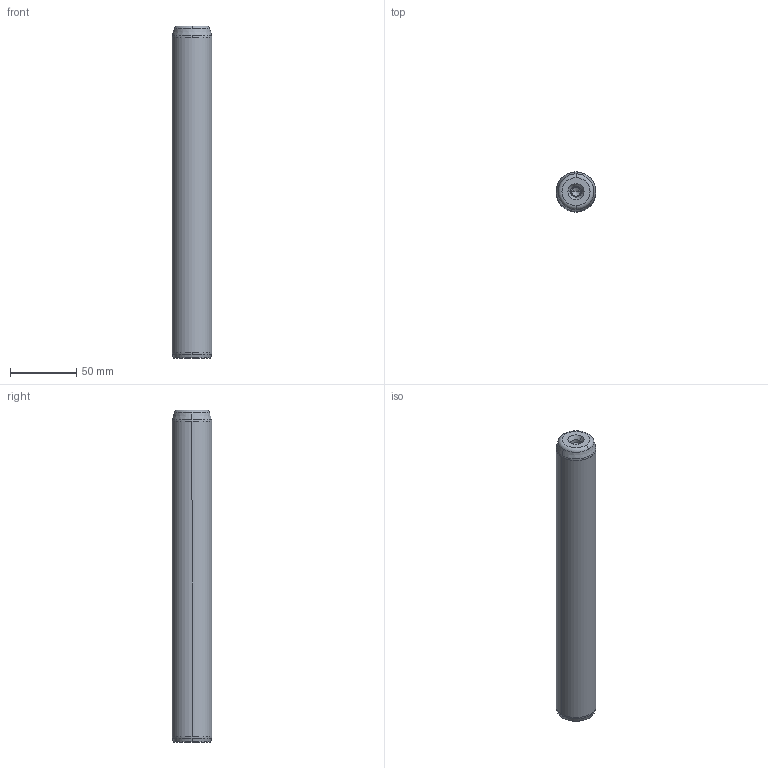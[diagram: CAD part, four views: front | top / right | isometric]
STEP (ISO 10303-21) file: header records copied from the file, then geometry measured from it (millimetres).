
FILE_DESCRIPTION((''),'2;1');
FILE_NAME('P10_030_250.stp','2008-12-23T15:00:28',(''),(''),'Mechanical Desktop 2009','Mechanical Desktop 2009',', , ');
FILE_SCHEMA(('CONFIG_CONTROL_DESIGN'));
Length unit declared in the file: millimetre
Products named in the file (5): Product; ProductAA; blmdl1; ProductA; blmdl1A
Assembly tree (2 placements, depth 3):
  Product
    ProductAA
      blmdl1
  ProductA
  blmdl1A
Bounding box: 30 x 30 x 250 mm (x, y, z)
Volume: 174560.8 mm3; surface area: 25144.6 mm2
Topology: 1 solids, 1 shells, 26 faces, 66 edges, 41 vertices
Faces by surface type: cone 10, torus 8, cylinder 6, plane 2
Entity records: 1012 total; most frequent: DIRECTION 170, CARTESIAN_POINT 134, ORIENTED_EDGE 128, AXIS2_PLACEMENT_3D 77, EDGE_CURVE 64, CIRCLE 48, VERTEX_POINT 41, EDGE_LOOP 27
